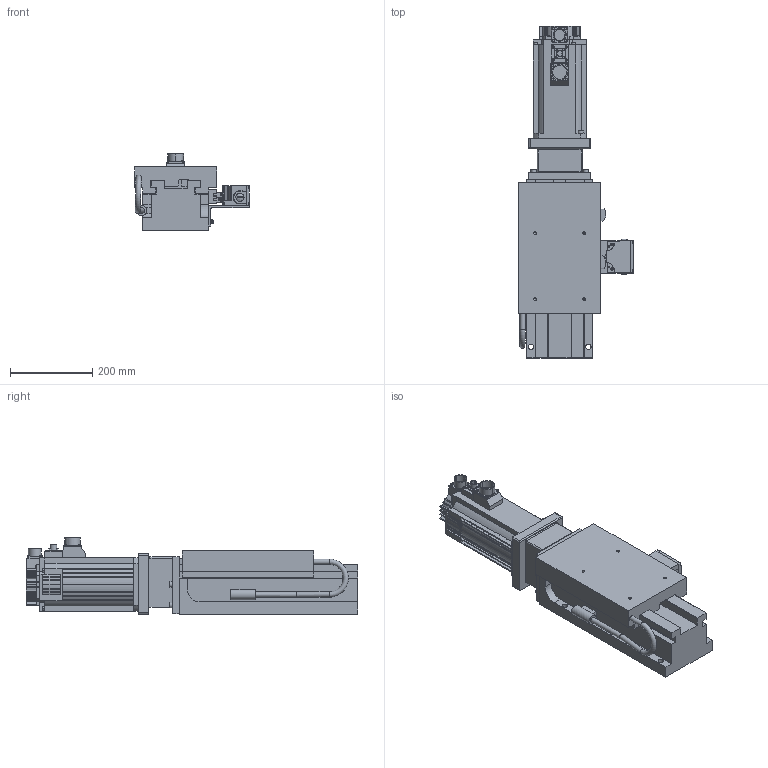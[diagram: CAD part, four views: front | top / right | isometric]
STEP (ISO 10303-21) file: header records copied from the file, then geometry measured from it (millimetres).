
FILE_DESCRIPTION((''),'2;1');
FILE_NAME('C:\VaultWork\Zeichnungen\Maßblätter\H160\VE01478-2-0 Maßblatt H160-me-100-EE.stp','2011-05-23T13:51:49',('H.Pankratz'),(''),'Autodesk Inventor 2008','Autodesk Inventor 2008','');
FILE_SCHEMA(('AUTOMOTIVE_DESIGN { 1 0 10303 214 1 1 1 1 }'));
Length unit declared in the file: millimetre
Products named in the file (1): VE01478-2-0 Maßblatt H160-me-100-EE
Bounding box: 279.5 x 809 x 185.75 mm (x, y, z)
Volume: 15066972.3 mm3; surface area: 865351.4 mm2
Topology: 1 solids, 4 shells, 956 faces, 2505 edges, 1632 vertices
Faces by surface type: plane 635, cylinder 258, cone 22, bspline 20, torus 19, sphere 2
Full cylindrical faces by diameter (mm): 3.8 x2, 4 x2, 4.917 x2, 5.9 x2, 6 x4, 6.6 x2, 8 x1, 9.98 x2, 10 x5, 13 x8, 20 x2, 25 x1
Entity records: 30126 total; most frequent: CARTESIAN_POINT 5798, DIRECTION 4805, ORIENTED_EDGE 4762, EDGE_CURVE 2381, VECTOR 1677, LINE 1677, VERTEX_POINT 1588, AXIS2_PLACEMENT_3D 1564
